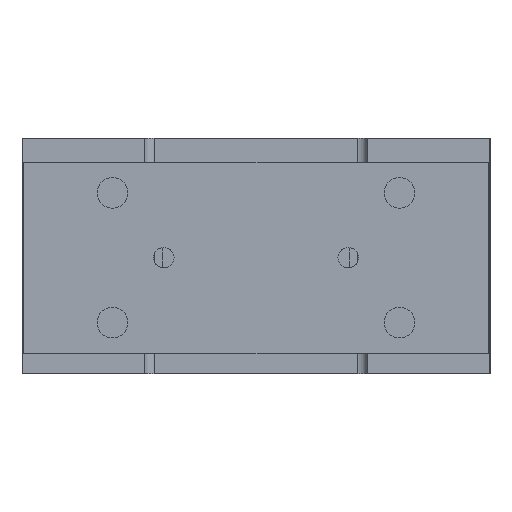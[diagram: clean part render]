
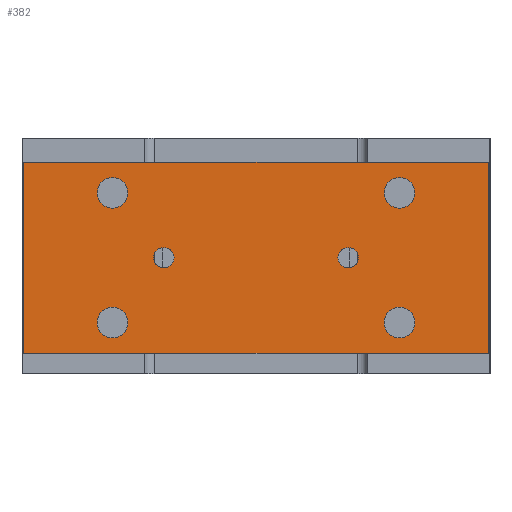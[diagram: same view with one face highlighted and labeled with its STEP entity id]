
A CAD part, left-side view. The second image highlights one B-rep face of the part: STEP entity #382.
In plain terms, the highlighted planar face has unit normal (-1, 0, 0).
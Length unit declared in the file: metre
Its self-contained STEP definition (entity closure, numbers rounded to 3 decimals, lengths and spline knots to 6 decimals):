
#382 = ADVANCED_FACE( '', ( #957, #958, #959, #960, #961, #962, #963 ), #964, .T. );
#957 = FACE_BOUND( '', #1813, .T. );
#958 = FACE_BOUND( '', #1814, .T. );
#959 = FACE_BOUND( '', #1815, .T. );
#960 = FACE_BOUND( '', #1816, .T. );
#961 = FACE_BOUND( '', #1817, .T. );
#962 = FACE_BOUND( '', #1818, .T. );
#963 = FACE_OUTER_BOUND( '', #1819, .T. );
#964 = PLANE( '', #1820 );
#1813 = EDGE_LOOP( '', ( #2872 ) );
#1814 = EDGE_LOOP( '', ( #2873 ) );
#1815 = EDGE_LOOP( '', ( #2874 ) );
#1816 = EDGE_LOOP( '', ( #2875 ) );
#1817 = EDGE_LOOP( '', ( #2876 ) );
#1818 = EDGE_LOOP( '', ( #2877 ) );
#1819 = EDGE_LOOP( '', ( #2878, #2879, #2880, #2881 ) );
#1820 = AXIS2_PLACEMENT_3D( '', #2882, #2883, #2884 );
#2872 = ORIENTED_EDGE( '', *, *, #4278, .F. );
#2873 = ORIENTED_EDGE( '', *, *, #4279, .F. );
#2874 = ORIENTED_EDGE( '', *, *, #4068, .F. );
#2875 = ORIENTED_EDGE( '', *, *, #4271, .F. );
#2876 = ORIENTED_EDGE( '', *, *, #4280, .F. );
#2877 = ORIENTED_EDGE( '', *, *, #4281, .T. );
#2878 = ORIENTED_EDGE( '', *, *, #4282, .T. );
#2879 = ORIENTED_EDGE( '', *, *, #4283, .T. );
#2880 = ORIENTED_EDGE( '', *, *, #4062, .T. );
#2881 = ORIENTED_EDGE( '', *, *, #4143, .T. );
#2882 = CARTESIAN_POINT( '', ( -0.1025, -0.068, -0.007 ) );
#2883 = DIRECTION( '', ( -1., 0., 0. ) );
#2884 = DIRECTION( '', ( 0., 0., 1. ) );
#4062 = EDGE_CURVE( '', #4665, #4663, #4666, .T. );
#4068 = EDGE_CURVE( '', #4674, #4674, #4675, .T. );
#4143 = EDGE_CURVE( '', #4663, #4799, #4801, .T. );
#4271 = EDGE_CURVE( '', #5008, #5008, #5009, .T. );
#4278 = EDGE_CURVE( '', #5019, #5019, #5020, .T. );
#4279 = EDGE_CURVE( '', #5021, #5021, #5022, .T. );
#4280 = EDGE_CURVE( '', #5023, #5023, #5024, .T. );
#4281 = EDGE_CURVE( '', #5025, #5025, #5026, .T. );
#4282 = EDGE_CURVE( '', #4799, #5027, #5028, .T. );
#4283 = EDGE_CURVE( '', #5027, #4665, #5029, .T. );
#4663 = VERTEX_POINT( '', #5541 );
#4665 = VERTEX_POINT( '', #5544 );
#4666 = LINE( '', #5545, #5546 );
#4674 = VERTEX_POINT( '', #5555 );
#4675 = CIRCLE( '', #5556, 0.0045 );
#4799 = VERTEX_POINT( '', #5713 );
#4801 = LINE( '', #5716, #5717 );
#5008 = VERTEX_POINT( '', #6077 );
#5009 = CIRCLE( '', #6078, 0.0045 );
#5019 = VERTEX_POINT( '', #6088 );
#5020 = CIRCLE( '', #6089, 0.0045 );
#5021 = VERTEX_POINT( '', #6090 );
#5022 = CIRCLE( '', #6091, 0.0045 );
#5023 = VERTEX_POINT( '', #6092 );
#5024 = CIRCLE( '', #6093, 0.003 );
#5025 = VERTEX_POINT( '', #6094 );
#5026 = CIRCLE( '', #6095, 0.003 );
#5027 = VERTEX_POINT( '', #6096 );
#5028 = LINE( '', #6097, #6098 );
#5029 = LINE( '', #6099, #6100 );
#5541 = CARTESIAN_POINT( '', ( -0.1025, 0.068, -0.063 ) );
#5544 = CARTESIAN_POINT( '', ( -0.1025, 0.068, -0.007 ) );
#5545 = CARTESIAN_POINT( '', ( -0.1025, 0.068, -0.007 ) );
#5546 = VECTOR( '', #6871, 1. );
#5555 = CARTESIAN_POINT( '', ( -0.1025, -0.0465, -0.016 ) );
#5556 = AXIS2_PLACEMENT_3D( '', #6879, #6880, #6881 );
#5713 = CARTESIAN_POINT( '', ( -0.1025, -0.068, -0.063 ) );
#5716 = CARTESIAN_POINT( '', ( -0.1025, 0.068, -0.063 ) );
#5717 = VECTOR( '', #6979, 1. );
#6077 = CARTESIAN_POINT( '', ( -0.1025, 0.0375, -0.016 ) );
#6078 = AXIS2_PLACEMENT_3D( '', #7130, #7131, #7132 );
#6088 = CARTESIAN_POINT( '', ( -0.1025, -0.0465, -0.054 ) );
#6089 = AXIS2_PLACEMENT_3D( '', #7142, #7143, #7144 );
#6090 = CARTESIAN_POINT( '', ( -0.1025, 0.0375, -0.054 ) );
#6091 = AXIS2_PLACEMENT_3D( '', #7145, #7146, #7147 );
#6092 = CARTESIAN_POINT( '', ( -0.1025, -0.024, -0.035 ) );
#6093 = AXIS2_PLACEMENT_3D( '', #7148, #7149, #7150 );
#6094 = CARTESIAN_POINT( '', ( -0.1025, 0.024, -0.035 ) );
#6095 = AXIS2_PLACEMENT_3D( '', #7151, #7152, #7153 );
#6096 = CARTESIAN_POINT( '', ( -0.1025, -0.068, -0.007 ) );
#6097 = CARTESIAN_POINT( '', ( -0.1025, -0.068, -0.063 ) );
#6098 = VECTOR( '', #7154, 1. );
#6099 = CARTESIAN_POINT( '', ( -0.1025, -0.068, -0.007 ) );
#6100 = VECTOR( '', #7155, 1. );
#6871 = DIRECTION( '', ( 0., 0., -1. ) );
#6879 = CARTESIAN_POINT( '', ( -0.1025, -0.042, -0.016 ) );
#6880 = DIRECTION( '', ( -1., 0., 0. ) );
#6881 = DIRECTION( '', ( 0., -1., 0. ) );
#6979 = DIRECTION( '', ( 0., -1., 0. ) );
#7130 = CARTESIAN_POINT( '', ( -0.1025, 0.042, -0.016 ) );
#7131 = DIRECTION( '', ( -1., 0., 0. ) );
#7132 = DIRECTION( '', ( 0., -1., 0. ) );
#7142 = CARTESIAN_POINT( '', ( -0.1025, -0.042, -0.054 ) );
#7143 = DIRECTION( '', ( -1., 0., 0. ) );
#7144 = DIRECTION( '', ( 0., -1., 0. ) );
#7145 = CARTESIAN_POINT( '', ( -0.1025, 0.042, -0.054 ) );
#7146 = DIRECTION( '', ( -1., 0., 0. ) );
#7147 = DIRECTION( '', ( 0., -1., 0. ) );
#7148 = CARTESIAN_POINT( '', ( -0.1025, -0.027, -0.035 ) );
#7149 = DIRECTION( '', ( -1., 0., 0. ) );
#7150 = DIRECTION( '', ( 0., 1., 0. ) );
#7151 = CARTESIAN_POINT( '', ( -0.1025, 0.027, -0.035 ) );
#7152 = DIRECTION( '', ( 1., 0., 0. ) );
#7153 = DIRECTION( '', ( 0., -1., 0. ) );
#7154 = DIRECTION( '', ( 0., 0., 1. ) );
#7155 = DIRECTION( '', ( 0., 1., 0. ) );
